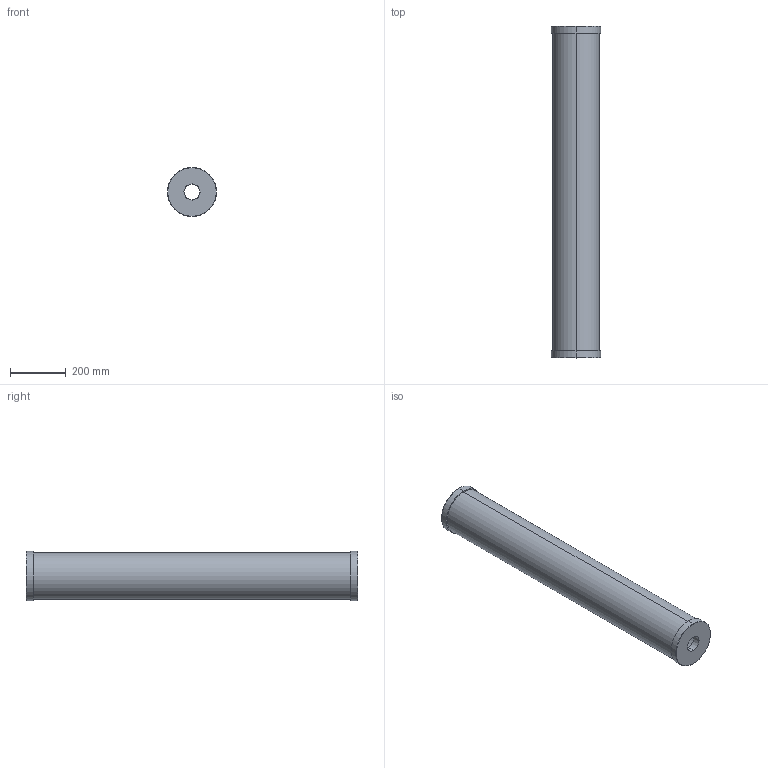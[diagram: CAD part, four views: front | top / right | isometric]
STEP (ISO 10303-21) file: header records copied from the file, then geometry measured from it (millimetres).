
FILE_DESCRIPTION (( 'STEP AP203' ), '1' );
FILE_NAME ('CC20000_P_BSPT.STEP', '2016-03-21T09:31:01', ( '' ), ( '' ), 'SwSTEP 2.0', 'SolidWorks 2014', '' );
FILE_SCHEMA (( 'CONFIG_CONTROL_DESIGN' ));
Length unit declared in the file: inch
Products named in the file (2): CC20000_P_BSPT
Bounding box: 176.53 x 1193.8 x 176.53 mm (x, y, z)
Volume: 6545297.7 mm3; surface area: 1255564.6 mm2
Topology: 1 solids, 1 shells, 22 faces, 44 edges, 28 vertices
Faces by surface type: cone 8, cylinder 8, plane 6
Entity records: 745 total; most frequent: DIRECTION 120, CARTESIAN_POINT 96, ORIENTED_EDGE 88, AXIS2_PLACEMENT_3D 52, EDGE_CURVE 44, VERTEX_POINT 28, EDGE_LOOP 28, CIRCLE 28
